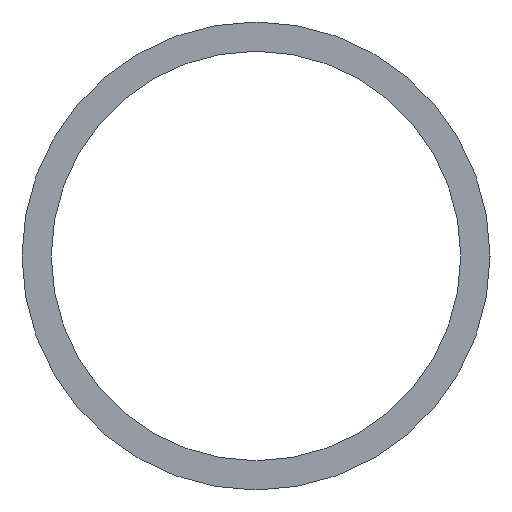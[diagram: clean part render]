
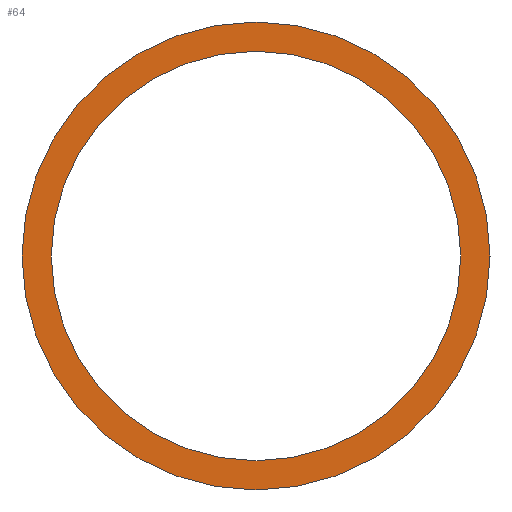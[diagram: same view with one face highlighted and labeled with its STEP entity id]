
A CAD part, left-side view. The second image highlights one B-rep face of the part: STEP entity #64.
In plain terms, the highlighted planar face has unit normal (-1, 0, 0).
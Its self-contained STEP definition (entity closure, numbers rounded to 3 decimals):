
#16=FACE_BOUND('',#28,.T.);
#18=PLANE('',#86);
#22=FACE_OUTER_BOUND('',#27,.T.);
#27=EDGE_LOOP('',(#57));
#28=EDGE_LOOP('',(#58));
#34=CIRCLE('',#81,7.);
#36=CIRCLE('',#84,8.);
#38=VERTEX_POINT('',#111);
#40=VERTEX_POINT('',#117);
#43=EDGE_CURVE('',#38,#38,#34,.T.);
#46=EDGE_CURVE('',#40,#40,#36,.T.);
#57=ORIENTED_EDGE('',*,*,#46,.F.);
#58=ORIENTED_EDGE('',*,*,#43,.F.);
#64=ADVANCED_FACE('',(#22,#16),#18,.F.);
#81=AXIS2_PLACEMENT_3D('',#113,#94,#95);
#84=AXIS2_PLACEMENT_3D('',#119,#101,#102);
#86=AXIS2_PLACEMENT_3D('',#121,#105,#106);
#94=DIRECTION('center_axis',(-1.,0.,0.));
#95=DIRECTION('ref_axis',(0.,1.,0.));
#101=DIRECTION('center_axis',(1.,0.,0.));
#102=DIRECTION('ref_axis',(0.,1.,0.));
#105=DIRECTION('center_axis',(1.,0.,0.));
#106=DIRECTION('ref_axis',(0.,1.,0.));
#111=CARTESIAN_POINT('',(0.,-7.,0.));
#113=CARTESIAN_POINT('Origin',(0.,0.,0.));
#117=CARTESIAN_POINT('',(0.,-8.,0.));
#119=CARTESIAN_POINT('Origin',(0.,0.,0.));
#121=CARTESIAN_POINT('Origin',(0.,0.,0.));
